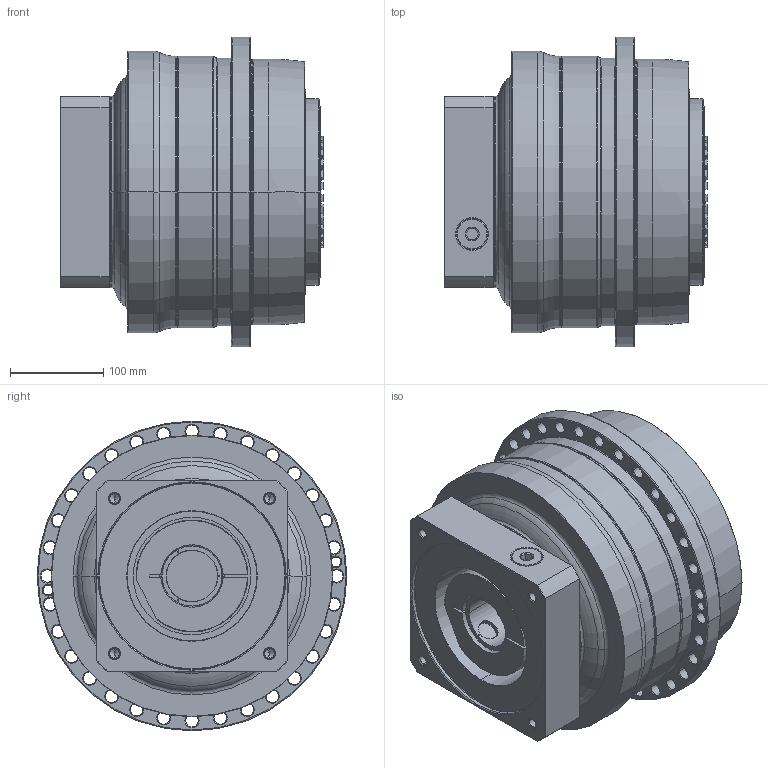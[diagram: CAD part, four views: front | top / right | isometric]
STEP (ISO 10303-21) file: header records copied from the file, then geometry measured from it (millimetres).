
FILE_DESCRIPTION((''),'2;1');
FILE_NAME('APC285_1ST_55-P0409C00201_ASM','2018-06-12T',('d01226'),(''),'PRO/ENGINEER BY PARAMETRIC TECHNOLOGY CORPORATION, 2008410','PRO/ENGINEER BY PARAMETRIC TECHNOLOGY CORPORATION, 2008410','');
FILE_SCHEMA(('CONFIG_CONTROL_DESIGN'));
Length unit declared in the file: millimetre
Products named in the file (9): P0278801003; P03598G0103; P1318810401; P0503C00016; P0912804001; P1211800001; P0409C00201; 21711426021; APC285_1ST_55-P0409C00201_ASM
Assembly tree (8 placements, depth 2):
  APC285_1ST_55-P0409C00201_ASM
    P0278801003
    P03598G0103
    P1318810401
    P0503C00016
    P0912804001
    P1211800001
    P0409C00201
    21711426021
Bounding box: 282.6 x 332 x 332 mm (x, y, z)
Volume: 16537118.9 mm3; surface area: 1085230.6 mm2
Topology: 9 solids, 22 shells, 820 faces, 2005 edges, 1227 vertices
Faces by surface type: cone 290, cylinder 234, plane 148, torus 134, bspline 14
Entity records: 29626 total; most frequent: CARTESIAN_POINT 9842, DIRECTION 4425, ORIENTED_EDGE 3924, EDGE_CURVE 1987, AXIS2_PLACEMENT_3D 1942, VERTEX_POINT 1227, CIRCLE 1107, EDGE_LOOP 944
